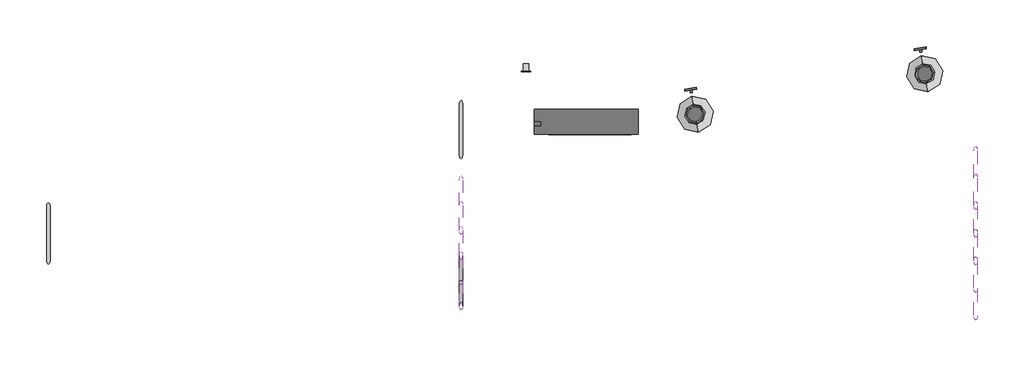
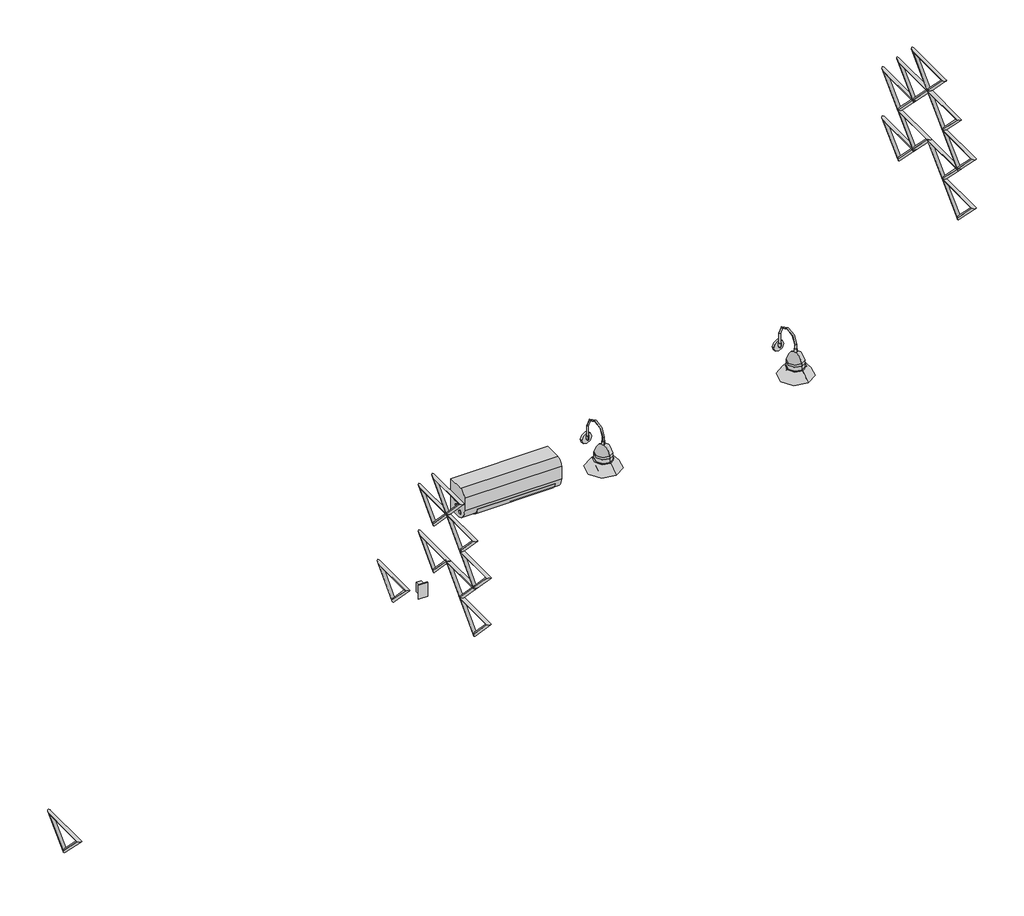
# One storey, incomplete: 18 plates, 2 light fixtures, 1 proxy, 1 switching device.
"""IFC4 building model written with IfcOpenShell, lengths in millimetres."""

from ifc_helpers import new_model, si_unit, frame, origin, place, context, project, spatial, ellipse_curve, transform, mapped, element, save
from ifc_brep_helpers import cylinder_surface, advanced_brep
from components import mechanical_equipment_9aaa4a25, light_fixture_100w_120v_0846f9e9, plate_190a94d3, plate_f58931bc, plate_4b5a16a1, tue_alta_10251bba

model = new_model("IFC4")

# Units and contexts
model_context = context("Model", 3, world=origin())
ifc_project = project(units=[si_unit("LENGTHUNIT", "METRE", prefix="MILLI")], contexts=[model_context])

# Site, building, storey
site = spatial("IfcSite", under=ifc_project)
building = spatial("IfcBuilding", under=site)
storey = spatial("IfcBuildingStorey", under=building, Name="PLATIBANDA", Elevation=4000.0)

# Proxy
placement = place(None, origin())
mechanical_equipment_shape = mechanical_equipment_9aaa4a25(model_context)
element("IfcBuildingElementProxy", 1, Name="Unidade Evaporadora - Sistema Split AC - 9-30 kBtu : Padrão", ObjectType="Unidade Evaporadora - Sistema Split AC - 9-30 kBtu : Padrão", at=placement, inside=storey, context=model_context, shape_type="MappedRepresentation", body=[
    mapped(mechanical_equipment_shape, transform((131006.0148435, -74659.1632818, 5220.0), x_axis=(-1.0, 0.0, 0.0), y_axis=(0.0, 0.0, -1.0), z_axis=(0.0, -1.0, 0.0))),
])

# Light fixtures
light_fixture_100w_120v_shape = light_fixture_100w_120v_0846f9e9(model_context)
element("IfcLightFixture", 2, ObjectType="M_Luminária de parede - Arandela : 100W - 120V", at=placement, inside=storey, context=model_context, shape_type="MappedRepresentation", body=[
    mapped(light_fixture_100w_120v_shape, transform((131746.1956652, -74509.5159258, 5200.0), x_axis=(0.9848077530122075, 0.17364817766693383, 0.0), y_axis=(0.0, 0.0, 1.0), z_axis=(0.17364817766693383, -0.9848077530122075, 0.0))),
])
element("IfcLightFixture", 3, ObjectType="M_Luminária de parede - Arandela : 100W - 120V", at=placement, inside=storey, context=model_context, shape_type="MappedRepresentation", body=[
    mapped(light_fixture_100w_120v_shape, transform((133380.0963761, -74221.4151466, 5200.0), x_axis=(0.9848077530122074, 0.17364817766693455, 0.0), y_axis=(0.0, 0.0, 1.0), z_axis=(0.17364817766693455, -0.9848077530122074, 0.0))),
])

# Plates
element("IfcPlate", 4, ObjectType="ZZK PilotoBIM : ZZK PilotoBIM", at=placement, inside=storey, context=model_context, shape_type="AdvancedBrep", body=[
    advanced_brep(
    [(130101.1500577, -74984.6244887, 4824.6264857), (130126.1500577, -74984.6244887, 4824.6264857), (130126.1500577, -74625.8683181, 4824.6264857), (130101.1500577, -74625.8683181, 4824.6264857), (130126.1500577, -74805.2464034, 4636.1818197), (130101.1500577, -74805.2464034, 4636.1818197)],
    [
        (0, 1, ellipse_curve(frame((130113.6500577, -74984.6244887, 4824.6264857), z_axis=(0.0, 0.39403828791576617, 0.9190940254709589), x_axis=(0.0, -0.919094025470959, 0.3940382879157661)), 31.7228056, 12.5)),
        (1, 2),
        (2, 3, ellipse_curve(frame((130113.6500577, -74625.8683181, 4824.6264857), z_axis=(0.0, -0.39403828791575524, 0.9190940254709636), x_axis=(0.0, -0.9190940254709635, -0.39403828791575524)), 31.7228056, 12.5)),
        (3, 0),
        (1, 0, ellipse_curve(frame((130113.6500577, -74984.6244887, 4824.6264857), z_axis=(0.0, 0.39403828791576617, 0.9190940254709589), x_axis=(0.0, -0.919094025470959, 0.3940382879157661)), 31.7228056, 12.5)),
        (3, 2, ellipse_curve(frame((130113.6500577, -74625.8683181, 4824.6264857), z_axis=(0.0, -0.39403828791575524, 0.9190940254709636), x_axis=(0.0, -0.9190940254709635, -0.39403828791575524)), 31.7228056, 12.5)),
        (2, 4),
        (4, 5, ellipse_curve(frame((130113.6500577, -74805.2464034, 4636.1818197), z_axis=(0.0, 0.9999999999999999, 0.0), x_axis=(0.0, 0.0, 1.0)), 18.1299295, 12.5)),
        (5, 3),
        (5, 4, ellipse_curve(frame((130113.6500577, -74805.2464034, 4636.1818197), z_axis=(0.0, 0.9999999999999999, 0.0), x_axis=(0.0, 0.0, 1.0)), 18.1299295, 12.5)),
        (4, 1),
        (0, 5),
    ],
    [
        cylinder_surface(frame((130113.6500577, -74984.6244887, 4824.6264857), z_axis=(0.0, -1.0, 0.0), x_axis=(0.0, 0.0, 1.0)), 12.5),
        cylinder_surface(frame((130113.6500577, -74625.8683181, 4824.6264857), z_axis=(0.0, 0.6894676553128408, 0.724316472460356), x_axis=(0.0, 0.724316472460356, -0.6894676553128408)), 12.5),
        cylinder_surface(frame((130113.6500577, -74805.2464034, 4636.1818197), z_axis=(0.0, 0.6894676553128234, -0.7243164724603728), x_axis=(0.0, -0.7243164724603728, -0.6894676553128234)), 12.5),
    ],
    [
        (0, [[1, 2, 3, 4]]),
        (0, [[5, -4, 6, -2]]),
        (1, [[-3, 7, 8, 9]]),
        (1, [[-6, -9, 10, -7]]),
        (2, [[-8, 11, -1, 12]]),
        (2, [[-10, -12, -5, -11]]),
    ],
),
])
element("IfcPlate", 5, ObjectType="ZZK PilotoBIM : ZZK PilotoBIM", at=placement, inside=storey, context=model_context, shape_type="AdvancedBrep", body=[
    advanced_brep(
    [(130101.1500577, -75522.7587447, 5389.9604836), (130126.1500577, -75522.7587447, 5389.9604836), (130126.1500577, -75164.0025741, 5389.9604836), (130101.1500577, -75164.0025741, 5389.9604836), (130126.1500577, -75343.3806594, 5201.5158176), (130101.1500577, -75343.3806594, 5201.5158176)],
    [
        (0, 1, ellipse_curve(frame((130113.6500577, -75522.7587447, 5389.9604836), z_axis=(0.0, 0.39403828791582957, 0.9190940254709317), x_axis=(0.0, -0.9190940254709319, 0.39403828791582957)), 31.7228056, 12.5)),
        (1, 2),
        (2, 3, ellipse_curve(frame((130113.6500577, -75164.0025741, 5389.9604836), z_axis=(0.0, -0.39403828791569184, 0.9190940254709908), x_axis=(0.0, -0.9190940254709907, -0.3940382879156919)), 31.7228056, 12.5)),
        (3, 0),
        (1, 0, ellipse_curve(frame((130113.6500577, -75522.7587447, 5389.9604836), z_axis=(0.0, 0.39403828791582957, 0.9190940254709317), x_axis=(0.0, -0.9190940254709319, 0.39403828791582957)), 31.7228056, 12.5)),
        (3, 2, ellipse_curve(frame((130113.6500577, -75164.0025741, 5389.9604836), z_axis=(0.0, -0.39403828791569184, 0.9190940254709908), x_axis=(0.0, -0.9190940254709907, -0.3940382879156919)), 31.7228056, 12.5)),
        (2, 4),
        (4, 5, ellipse_curve(frame((130113.6500577, -75343.3806594, 5201.5158176), z_axis=(0.0, 0.9999999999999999, 0.0), x_axis=(0.0, 0.0, 1.0)), 18.1299295, 12.5)),
        (5, 3),
        (5, 4, ellipse_curve(frame((130113.6500577, -75343.3806594, 5201.5158176), z_axis=(0.0, 0.9999999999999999, 0.0), x_axis=(0.0, 0.0, 1.0)), 18.1299295, 12.5)),
        (4, 1),
        (0, 5),
    ],
    [
        cylinder_surface(frame((130113.6500577, -75522.7587447, 5389.9604836), z_axis=(0.0, -1.0, 0.0), x_axis=(0.0, 0.0, 1.0)), 12.5),
        cylinder_surface(frame((130113.6500577, -75164.0025741, 5389.9604836), z_axis=(0.0, 0.6894676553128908, 0.7243164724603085), x_axis=(0.0, 0.7243164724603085, -0.6894676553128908)), 12.5),
        cylinder_surface(frame((130113.6500577, -75343.3806594, 5201.5158176), z_axis=(0.0, 0.6894676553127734, -0.7243164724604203), x_axis=(0.0, -0.7243164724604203, -0.6894676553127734)), 12.5),
    ],
    [
        (0, [[1, 2, 3, 4]]),
        (0, [[5, -4, 6, -2]]),
        (1, [[-3, 7, 8, 9]]),
        (1, [[-6, -9, 10, -7]]),
        (2, [[-8, 11, -1, 12]]),
        (2, [[-10, -12, -5, -11]]),
    ],
),
])
element("IfcPlate", 6, ObjectType="ZZK PilotoBIM : ZZK PilotoBIM", at=placement, inside=storey, context=model_context, shape_type="AdvancedBrep", body=[
    advanced_brep(
    [(130101.1500577, -76060.8930007, 5201.5158176), (130126.1500577, -76060.8930007, 5201.5158176), (130126.1500577, -75702.1368301, 5201.5158176), (130101.1500577, -75702.1368301, 5201.5158176), (130126.1500577, -75881.5149154, 5013.0711517), (130101.1500577, -75881.5149154, 5013.0711517)],
    [
        (0, 1, ellipse_curve(frame((130113.6500577, -76060.8930007, 5201.5158176), z_axis=(0.0, 0.39403828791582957, 0.9190940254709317), x_axis=(0.0, -0.9190940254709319, 0.39403828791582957)), 31.7228056, 12.5)),
        (1, 2),
        (2, 3, ellipse_curve(frame((130113.6500577, -75702.1368301, 5201.5158176), z_axis=(0.0, -0.39403828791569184, 0.9190940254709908), x_axis=(0.0, -0.9190940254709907, -0.3940382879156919)), 31.7228056, 12.5)),
        (3, 0),
        (1, 0, ellipse_curve(frame((130113.6500577, -76060.8930007, 5201.5158176), z_axis=(0.0, 0.39403828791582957, 0.9190940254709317), x_axis=(0.0, -0.9190940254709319, 0.39403828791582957)), 31.7228056, 12.5)),
        (3, 2, ellipse_curve(frame((130113.6500577, -75702.1368301, 5201.5158176), z_axis=(0.0, -0.39403828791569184, 0.9190940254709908), x_axis=(0.0, -0.9190940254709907, -0.3940382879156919)), 31.7228056, 12.5)),
        (2, 4),
        (4, 5, ellipse_curve(frame((130113.6500577, -75881.5149154, 5013.0711517), z_axis=(0.0, 0.9999999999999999, 0.0), x_axis=(0.0, 0.0, 1.0)), 18.1299295, 12.5)),
        (5, 3),
        (5, 4, ellipse_curve(frame((130113.6500577, -75881.5149154, 5013.0711517), z_axis=(0.0, 0.9999999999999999, 0.0), x_axis=(0.0, 0.0, 1.0)), 18.1299295, 12.5)),
        (4, 1),
        (0, 5),
    ],
    [
        cylinder_surface(frame((130113.6500577, -76060.8930007, 5201.5158176), z_axis=(0.0, -1.0, 0.0), x_axis=(0.0, 0.0, 1.0)), 12.5),
        cylinder_surface(frame((130113.6500577, -75702.1368301, 5201.5158176), z_axis=(0.0, 0.6894676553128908, 0.7243164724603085), x_axis=(0.0, 0.7243164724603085, -0.6894676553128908)), 12.5),
        cylinder_surface(frame((130113.6500577, -75881.5149154, 5013.0711517), z_axis=(0.0, 0.6894676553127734, -0.7243164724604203), x_axis=(0.0, -0.7243164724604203, -0.6894676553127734)), 12.5),
    ],
    [
        (0, [[1, 2, 3, 4]]),
        (0, [[5, -4, 6, -2]]),
        (1, [[-3, 7, 8, 9]]),
        (1, [[-6, -9, 10, -7]]),
        (2, [[-8, 11, -1, 12]]),
        (2, [[-10, -12, -5, -11]]),
    ],
),
])
element("IfcPlate", 7, ObjectType="ZZK PilotoBIM : ZZK PilotoBIM", at=placement, inside=storey, context=model_context, shape_type="AdvancedBrep", body=[
    advanced_brep(
    [(130101.1500577, -75881.5149154, 5389.9604836), (130126.1500577, -75881.5149154, 5389.9604836), (130126.1500577, -75522.7587447, 5389.9604836), (130101.1500577, -75522.7587447, 5389.9604836), (130126.1500577, -75702.1368301, 5201.5158176), (130101.1500577, -75702.1368301, 5201.5158176)],
    [
        (0, 1, ellipse_curve(frame((130113.6500577, -75881.5149154, 5389.9604836), z_axis=(0.0, 0.39403828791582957, 0.9190940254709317), x_axis=(0.0, -0.9190940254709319, 0.39403828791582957)), 31.7228056, 12.5)),
        (1, 2),
        (2, 3, ellipse_curve(frame((130113.6500577, -75522.7587447, 5389.9604836), z_axis=(0.0, -0.39403828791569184, 0.9190940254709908), x_axis=(0.0, -0.9190940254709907, -0.3940382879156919)), 31.7228056, 12.5)),
        (3, 0),
        (1, 0, ellipse_curve(frame((130113.6500577, -75881.5149154, 5389.9604836), z_axis=(0.0, 0.39403828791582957, 0.9190940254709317), x_axis=(0.0, -0.9190940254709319, 0.39403828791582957)), 31.7228056, 12.5)),
        (3, 2, ellipse_curve(frame((130113.6500577, -75522.7587447, 5389.9604836), z_axis=(0.0, -0.39403828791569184, 0.9190940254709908), x_axis=(0.0, -0.9190940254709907, -0.3940382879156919)), 31.7228056, 12.5)),
        (2, 4),
        (4, 5, ellipse_curve(frame((130113.6500577, -75702.1368301, 5201.5158176), z_axis=(0.0, 0.9999999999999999, 0.0), x_axis=(0.0, 0.0, 1.0)), 18.1299295, 12.5)),
        (5, 3),
        (5, 4, ellipse_curve(frame((130113.6500577, -75702.1368301, 5201.5158176), z_axis=(0.0, 0.9999999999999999, 0.0), x_axis=(0.0, 0.0, 1.0)), 18.1299295, 12.5)),
        (4, 1),
        (0, 5),
    ],
    [
        cylinder_surface(frame((130113.6500577, -75881.5149154, 5389.9604836), z_axis=(0.0, -1.0, 0.0), x_axis=(0.0, 0.0, 1.0)), 12.5),
        cylinder_surface(frame((130113.6500577, -75522.7587447, 5389.9604836), z_axis=(0.0, 0.6894676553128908, 0.7243164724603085), x_axis=(0.0, 0.7243164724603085, -0.6894676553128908)), 12.5),
        cylinder_surface(frame((130113.6500577, -75702.1368301, 5201.5158176), z_axis=(0.0, 0.6894676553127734, -0.7243164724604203), x_axis=(0.0, -0.7243164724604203, -0.6894676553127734)), 12.5),
    ],
    [
        (0, [[1, 2, 3, 4]]),
        (0, [[5, -4, 6, -2]]),
        (1, [[-3, 7, 8, 9]]),
        (1, [[-6, -9, 10, -7]]),
        (2, [[-8, 11, -1, 12]]),
        (2, [[-10, -12, -5, -11]]),
    ],
),
])
element("IfcPlate", 8, ObjectType="ZZK PilotoBIM : ZZK PilotoBIM", at=placement, inside=storey, context=model_context, shape_type="AdvancedBrep", body=[
    advanced_brep(
    [(133763.5148435, -75543.0255541, 7521.6126393), (133788.5148435, -75543.0255541, 7521.6126393), (133788.5148435, -75150.5523547, 7521.6126393), (133763.5148435, -75150.5523547, 7521.6126393), (133788.5148435, -75346.7889544, 7323.8907991), (133763.5148435, -75346.7889544, 7323.8907991)],
    [
        (0, 1, ellipse_curve(frame((133776.0148435, -75543.0255541, 7521.6126393), z_axis=(0.0, 0.38442427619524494, 0.9231565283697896), x_axis=(0.0, -0.9231565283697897, 0.38442427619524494)), 32.5161567, 12.5)),
        (1, 2),
        (2, 3, ellipse_curve(frame((133776.0148435, -75150.5523547, 7521.6126393), z_axis=(0.0, -0.384424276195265, 0.9231565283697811), x_axis=(0.0, -0.9231565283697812, -0.384424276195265)), 32.5161567, 12.5)),
        (3, 0),
        (1, 0, ellipse_curve(frame((133776.0148435, -75543.0255541, 7521.6126393), z_axis=(0.0, 0.38442427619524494, 0.9231565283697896), x_axis=(0.0, -0.9231565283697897, 0.38442427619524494)), 32.5161567, 12.5)),
        (3, 2, ellipse_curve(frame((133776.0148435, -75150.5523547, 7521.6126393), z_axis=(0.0, -0.384424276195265, 0.9231565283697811), x_axis=(0.0, -0.9231565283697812, -0.384424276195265)), 32.5161567, 12.5)),
        (2, 4),
        (4, 5, ellipse_curve(frame((133776.0148435, -75346.7889544, 7323.8907991), z_axis=(0.0, 1.0, 0.0), x_axis=(0.0, 0.0, 1.0)), 17.7446934, 12.5)),
        (5, 3),
        (5, 4, ellipse_curve(frame((133776.0148435, -75346.7889544, 7323.8907991), z_axis=(0.0, 1.0, 0.0), x_axis=(0.0, 0.0, 1.0)), 17.7446934, 12.5)),
        (4, 1),
        (0, 5),
    ],
    [
        cylinder_surface(frame((133776.0148435, -75543.0255541, 7521.6126393), z_axis=(0.0, -1.0, 0.0), x_axis=(0.0, 0.0, 1.0)), 12.5),
        cylinder_surface(frame((133776.0148435, -75150.5523547, 7521.6126393), z_axis=(0.0, 0.7044359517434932, 0.7097675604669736), x_axis=(0.0, 0.7097675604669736, -0.7044359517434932)), 12.5),
        cylinder_surface(frame((133776.0148435, -75346.7889544, 7323.8907991), z_axis=(0.0, 0.704435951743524, -0.709767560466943), x_axis=(0.0, -0.709767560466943, -0.704435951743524)), 12.5),
    ],
    [
        (0, [[1, 2, 3, 4]]),
        (0, [[5, -4, 6, -2]]),
        (1, [[-3, 7, 8, 9]]),
        (1, [[-6, -9, 10, -7]]),
        (2, [[-8, 11, -1, 12]]),
        (2, [[-10, -12, -5, -11]]),
    ],
),
])
element("IfcPlate", 9, ObjectType="ZZK PilotoBIM : ZZK PilotoBIM", at=placement, inside=storey, context=model_context, shape_type="AdvancedBrep", body=[
    advanced_brep(
    [(133763.5148435, -75346.7889544, 7323.8907991), (133788.5148435, -75346.7889544, 7323.8907991), (133788.5148435, -74954.3157549, 7323.8907991), (133763.5148435, -74954.3157549, 7323.8907991), (133788.5148435, -75150.5523547, 7126.1689589), (133763.5148435, -75150.5523547, 7126.1689589)],
    [
        (0, 1, ellipse_curve(frame((133776.0148435, -75346.7889544, 7323.8907991), z_axis=(0.0, 0.38442427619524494, 0.9231565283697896), x_axis=(0.0, -0.9231565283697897, 0.38442427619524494)), 32.5161567, 12.5)),
        (1, 2),
        (2, 3, ellipse_curve(frame((133776.0148435, -74954.3157549, 7323.8907991), z_axis=(0.0, -0.384424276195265, 0.9231565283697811), x_axis=(0.0, -0.9231565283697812, -0.384424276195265)), 32.5161567, 12.5)),
        (3, 0),
        (1, 0, ellipse_curve(frame((133776.0148435, -75346.7889544, 7323.8907991), z_axis=(0.0, 0.38442427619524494, 0.9231565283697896), x_axis=(0.0, -0.9231565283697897, 0.38442427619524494)), 32.5161567, 12.5)),
        (3, 2, ellipse_curve(frame((133776.0148435, -74954.3157549, 7323.8907991), z_axis=(0.0, -0.384424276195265, 0.9231565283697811), x_axis=(0.0, -0.9231565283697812, -0.384424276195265)), 32.5161567, 12.5)),
        (2, 4),
        (4, 5, ellipse_curve(frame((133776.0148435, -75150.5523547, 7126.1689589), z_axis=(0.0, 1.0, 0.0), x_axis=(0.0, 0.0, 1.0)), 17.7446934, 12.5)),
        (5, 3),
        (5, 4, ellipse_curve(frame((133776.0148435, -75150.5523547, 7126.1689589), z_axis=(0.0, 1.0, 0.0), x_axis=(0.0, 0.0, 1.0)), 17.7446934, 12.5)),
        (4, 1),
        (0, 5),
    ],
    [
        cylinder_surface(frame((133776.0148435, -75346.7889544, 7323.8907991), z_axis=(0.0, -1.0, 0.0), x_axis=(0.0, 0.0, 1.0)), 12.5),
        cylinder_surface(frame((133776.0148435, -74954.3157549, 7323.8907991), z_axis=(0.0, 0.7044359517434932, 0.7097675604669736), x_axis=(0.0, 0.7097675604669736, -0.7044359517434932)), 12.5),
        cylinder_surface(frame((133776.0148435, -75150.5523547, 7126.1689589), z_axis=(0.0, 0.704435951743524, -0.709767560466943), x_axis=(0.0, -0.709767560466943, -0.704435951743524)), 12.5),
    ],
    [
        (0, [[1, 2, 3, 4]]),
        (0, [[5, -4, 6, -2]]),
        (1, [[-3, 7, 8, 9]]),
        (1, [[-6, -9, 10, -7]]),
        (2, [[-8, 11, -1, 12]]),
        (2, [[-10, -12, -5, -11]]),
    ],
),
])
element("IfcPlate", 10, ObjectType="ZZK PilotoBIM : ZZK PilotoBIM", at=placement, inside=storey, context=model_context, shape_type="AdvancedBrep", body=[
    advanced_brep(
    [(133763.5148435, -76131.7353533, 7323.8907991), (133788.5148435, -76131.7353533, 7323.8907991), (133788.5148435, -75739.2621539, 7323.8907991), (133763.5148435, -75739.2621539, 7323.8907991), (133788.5148435, -75935.4987536, 7126.1689589), (133763.5148435, -75935.4987536, 7126.1689589)],
    [
        (0, 1, ellipse_curve(frame((133776.0148435, -76131.7353533, 7323.8907991), z_axis=(0.0, 0.38442427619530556, 0.9231565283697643), x_axis=(0.0, -0.9231565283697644, 0.38442427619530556)), 32.5161567, 12.5)),
        (1, 2),
        (2, 3, ellipse_curve(frame((133776.0148435, -75739.2621539, 7323.8907991), z_axis=(0.0, -0.38442427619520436, 0.9231565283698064), x_axis=(0.0, -0.9231565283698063, -0.38442427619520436)), 32.5161567, 12.5)),
        (3, 0),
        (1, 0, ellipse_curve(frame((133776.0148435, -76131.7353533, 7323.8907991), z_axis=(0.0, 0.38442427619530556, 0.9231565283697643), x_axis=(0.0, -0.9231565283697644, 0.38442427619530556)), 32.5161567, 12.5)),
        (3, 2, ellipse_curve(frame((133776.0148435, -75739.2621539, 7323.8907991), z_axis=(0.0, -0.38442427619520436, 0.9231565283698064), x_axis=(0.0, -0.9231565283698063, -0.38442427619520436)), 32.5161567, 12.5)),
        (2, 4),
        (4, 5, ellipse_curve(frame((133776.0148435, -75935.4987536, 7126.1689589), z_axis=(0.0, 1.0, 0.0), x_axis=(0.0, 0.0, 1.0)), 17.7446934, 12.5)),
        (5, 3),
        (5, 4, ellipse_curve(frame((133776.0148435, -75935.4987536, 7126.1689589), z_axis=(0.0, 1.0, 0.0), x_axis=(0.0, 0.0, 1.0)), 17.7446934, 12.5)),
        (4, 1),
        (0, 5),
    ],
    [
        cylinder_surface(frame((133776.0148435, -76131.7353533, 7323.8907991), z_axis=(0.0, -1.0, 0.0), x_axis=(0.0, 0.0, 1.0)), 12.5),
        cylinder_surface(frame((133776.0148435, -75739.2621539, 7323.8907991), z_axis=(0.0, 0.7044359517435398, 0.7097675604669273), x_axis=(0.0, 0.7097675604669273, -0.7044359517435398)), 12.5),
        cylinder_surface(frame((133776.0148435, -75935.4987536, 7126.1689589), z_axis=(0.0, 0.7044359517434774, -0.7097675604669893), x_axis=(0.0, -0.7097675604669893, -0.7044359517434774)), 12.5),
    ],
    [
        (0, [[1, 2, 3, 4]]),
        (0, [[5, -4, 6, -2]]),
        (1, [[-3, 7, 8, 9]]),
        (1, [[-6, -9, 10, -7]]),
        (2, [[-8, 11, -1, 12]]),
        (2, [[-10, -12, -5, -11]]),
    ],
),
])
element("IfcPlate", 11, ObjectType="ZZK PilotoBIM : ZZK PilotoBIM", at=placement, inside=storey, context=model_context, shape_type="AdvancedBrep", body=[
    advanced_brep(
    [(133763.5148435, -75935.4987536, 7521.6126393), (133788.5148435, -75935.4987536, 7521.6126393), (133788.5148435, -75543.0255541, 7521.6126393), (133763.5148435, -75543.0255541, 7521.6126393), (133788.5148435, -75739.2621539, 7323.8907991), (133763.5148435, -75739.2621539, 7323.8907991)],
    [
        (0, 1, ellipse_curve(frame((133776.0148435, -75935.4987536, 7521.6126393), z_axis=(0.0, 0.38442427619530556, 0.9231565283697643), x_axis=(0.0, -0.9231565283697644, 0.38442427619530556)), 32.5161567, 12.5)),
        (1, 2),
        (2, 3, ellipse_curve(frame((133776.0148435, -75543.0255541, 7521.6126393), z_axis=(0.0, -0.38442427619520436, 0.9231565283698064), x_axis=(0.0, -0.9231565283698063, -0.38442427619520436)), 32.5161567, 12.5)),
        (3, 0),
        (1, 0, ellipse_curve(frame((133776.0148435, -75935.4987536, 7521.6126393), z_axis=(0.0, 0.38442427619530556, 0.9231565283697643), x_axis=(0.0, -0.9231565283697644, 0.38442427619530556)), 32.5161567, 12.5)),
        (3, 2, ellipse_curve(frame((133776.0148435, -75543.0255541, 7521.6126393), z_axis=(0.0, -0.38442427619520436, 0.9231565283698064), x_axis=(0.0, -0.9231565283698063, -0.38442427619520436)), 32.5161567, 12.5)),
        (2, 4),
        (4, 5, ellipse_curve(frame((133776.0148435, -75739.2621539, 7323.8907991), z_axis=(0.0, 1.0, 0.0), x_axis=(0.0, 0.0, 1.0)), 17.7446934, 12.5)),
        (5, 3),
        (5, 4, ellipse_curve(frame((133776.0148435, -75739.2621539, 7323.8907991), z_axis=(0.0, 1.0, 0.0), x_axis=(0.0, 0.0, 1.0)), 17.7446934, 12.5)),
        (4, 1),
        (0, 5),
    ],
    [
        cylinder_surface(frame((133776.0148435, -75935.4987536, 7521.6126393), z_axis=(0.0, -1.0, 0.0), x_axis=(0.0, 0.0, 1.0)), 12.5),
        cylinder_surface(frame((133776.0148435, -75543.0255541, 7521.6126393), z_axis=(0.0, 0.7044359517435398, 0.7097675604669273), x_axis=(0.0, 0.7097675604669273, -0.7044359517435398)), 12.5),
        cylinder_surface(frame((133776.0148435, -75739.2621539, 7323.8907991), z_axis=(0.0, 0.7044359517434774, -0.7097675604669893), x_axis=(0.0, -0.7097675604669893, -0.7044359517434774)), 12.5),
    ],
    [
        (0, [[1, 2, 3, 4]]),
        (0, [[5, -4, 6, -2]]),
        (1, [[-3, 7, 8, 9]]),
        (1, [[-6, -9, 10, -7]]),
        (2, [[-8, 11, -1, 12]]),
        (2, [[-10, -12, -5, -11]]),
    ],
),
])
plate_shape = plate_190a94d3(model_context)
element("IfcPlate", 12, ObjectType="ZZK PilotoBIM : ZZK PilotoBIM", at=placement, inside=storey, context=model_context, shape_type="MappedRepresentation", body=[
    mapped(plate_shape, transform((127176.0148435, -69447.0255541, -863.6632093), x_axis=(0.0, -1.0, 0.0), y_axis=(0.0, 0.0, 1.0), z_axis=(-1.0, 0.0, 0.0))),
])
plate_2_shape = plate_f58931bc(model_context)
element("IfcPlate", 13, ObjectType="ZZK PilotoBIM : ZZK PilotoBIM", at=placement, inside=storey, context=model_context, shape_type="MappedRepresentation", body=[
    mapped(plate_2_shape, transform((130113.6500577, -69247.3806594, 624.0349269), x_axis=(0.0, -1.0, 0.0), y_axis=(0.0, 0.0, 1.0), z_axis=(-1.0, 0.0, 0.0))),
])
element("IfcPlate", 14, ObjectType="ZZK PilotoBIM : ZZK PilotoBIM", at=placement, inside=storey, context=model_context, shape_type="MappedRepresentation", body=[
    mapped(plate_2_shape, transform((130113.6500577, -69606.1368301, 624.0349269), x_axis=(0.0, -1.0, 0.0), y_axis=(0.0, 0.0, 1.0), z_axis=(-1.0, 0.0, 0.0))),
])
element("IfcPlate", 15, ObjectType="ZZK PilotoBIM : ZZK PilotoBIM", at=placement, inside=storey, context=model_context, shape_type="MappedRepresentation", body=[
    mapped(plate_2_shape, transform((130113.6500577, -69426.7587447, 812.4795929), x_axis=(0.0, -1.0, 0.0), y_axis=(0.0, 0.0, 1.0), z_axis=(-1.0, 0.0, 0.0))),
])
element("IfcPlate", 16, ObjectType="ZZK PilotoBIM : ZZK PilotoBIM", at=placement, inside=storey, context=model_context, shape_type="MappedRepresentation", body=[
    mapped(plate_2_shape, transform((130113.6500577, -69785.5149154, 435.5902609), x_axis=(0.0, -1.0, 0.0), y_axis=(0.0, 0.0, 1.0), z_axis=(-1.0, 0.0, 0.0))),
])
plate_3_shape = plate_4b5a16a1(model_context)
element("IfcPlate", 17, ObjectType="ZZK PilotoBIM : ZZK PilotoBIM", at=placement, inside=storey, context=model_context, shape_type="MappedRepresentation", body=[
    mapped(plate_3_shape, transform((133776.0148435, -69054.5523547, 2573.4271994), x_axis=(0.0, -1.0, 0.0), y_axis=(0.0, 0.0, 1.0), z_axis=(-1.0, 0.0, 0.0))),
])
element("IfcPlate", 18, ObjectType="ZZK PilotoBIM : ZZK PilotoBIM", at=placement, inside=storey, context=model_context, shape_type="MappedRepresentation", body=[
    mapped(plate_3_shape, transform((133776.0148435, -69839.4987536, 2573.4271994), x_axis=(0.0, -1.0, 0.0), y_axis=(0.0, 0.0, 1.0), z_axis=(-1.0, 0.0, 0.0))),
])
element("IfcPlate", 19, ObjectType="ZZK PilotoBIM : ZZK PilotoBIM", at=placement, inside=storey, context=model_context, shape_type="MappedRepresentation", body=[
    mapped(plate_3_shape, transform((133776.0148435, -69250.7889544, 2771.1490396), x_axis=(0.0, -1.0, 0.0), y_axis=(0.0, 0.0, 1.0), z_axis=(-1.0, 0.0, 0.0))),
])
element("IfcPlate", 20, ObjectType="ZZK PilotoBIM : ZZK PilotoBIM", at=placement, inside=storey, context=model_context, shape_type="MappedRepresentation", body=[
    mapped(plate_3_shape, transform((133776.0148435, -69643.2621539, 2771.1490396), x_axis=(0.0, -1.0, 0.0), y_axis=(0.0, 0.0, 1.0), z_axis=(-1.0, 0.0, 0.0))),
])
element("IfcPlate", 21, ObjectType="ZZK PilotoBIM : ZZK PilotoBIM", at=placement, inside=storey, context=model_context, shape_type="MappedRepresentation", body=[
    mapped(plate_3_shape, transform((133776.0148435, -69447.0255541, 2968.8708798), x_axis=(0.0, -1.0, 0.0), y_axis=(0.0, 0.0, 1.0), z_axis=(-1.0, 0.0, 0.0))),
])

# Switching device
tue_alta_shape = tue_alta_10251bba(model_context)
element("IfcSwitchingDevice", 22, ObjectType="Interruptor - Eletroduto : Simples", at=placement, inside=storey, context=model_context, shape_type="MappedRepresentation", body=[
    mapped(tue_alta_shape, transform((130576.0148435, -74388.8193672, 4300.0), x_axis=(1.0, 0.0, 0.0), y_axis=(0.0, 0.0, 1.0), z_axis=(0.0, -1.0, 0.0))),
])

save(model, "model.ifc")
